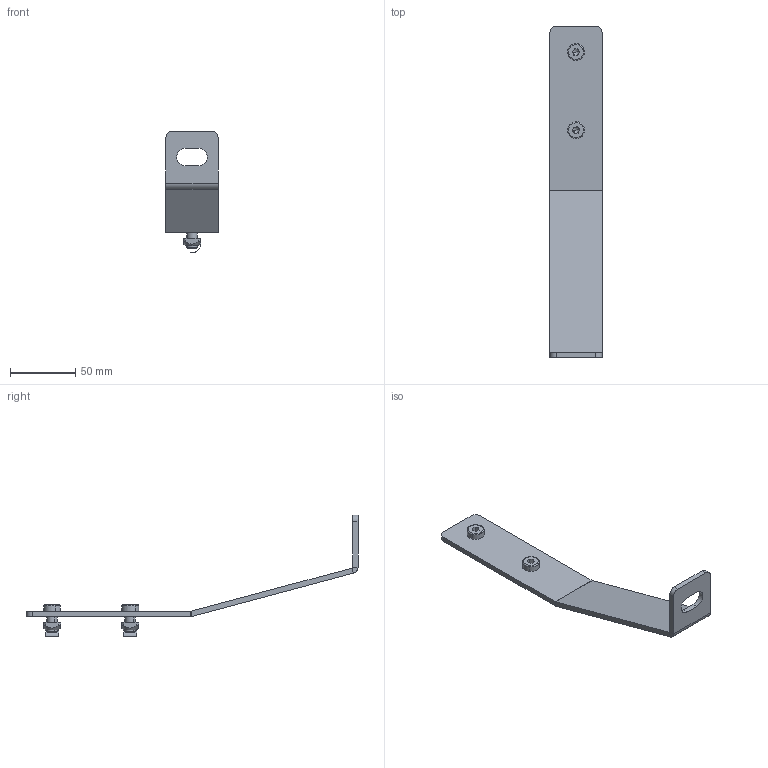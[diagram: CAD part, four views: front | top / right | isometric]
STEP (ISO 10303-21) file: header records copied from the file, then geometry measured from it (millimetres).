
FILE_DESCRIPTION (( 'STEP AP214' ), '1' );
FILE_NAME ('1.5033 Lattiakiinnityskulma pitkä.STEP', '2025-09-16T09:51:33', ( '' ), ( '' ), 'SwSTEP 2.0', 'SolidWorks 2025', '' );
FILE_SCHEMA (( 'AUTOMOTIVE_DESIGN' ));
Length unit declared in the file: millimetre
Products named in the file (1): 1.5033 Lattiakiinnityskulma pitkä
Bounding box: 40 x 255.01 x 93.58 mm (x, y, z)
Volume: 50182.3 mm3; surface area: 29687.2 mm2
Topology: 5 solids, 5 shells, 154 faces, 368 edges, 224 vertices
Faces by surface type: plane 94, cylinder 34, cone 18, torus 8
Entity records: 6349 total; most frequent: CARTESIAN_POINT 1025, DIRECTION 746, ORIENTED_EDGE 728, EDGE_CURVE 364, AXIS2_PLACEMENT_3D 265, VERTEX_POINT 224, LINE 216, VECTOR 216
